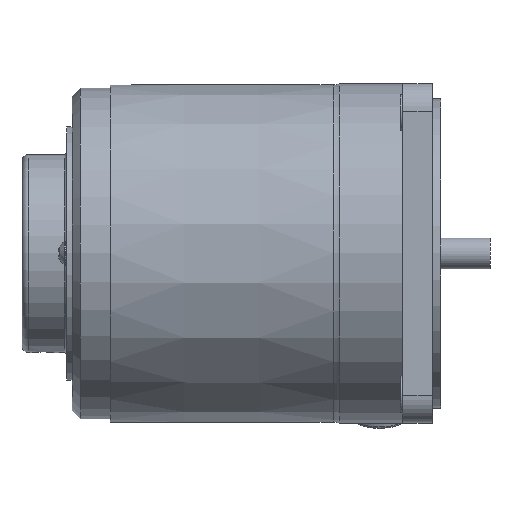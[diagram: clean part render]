
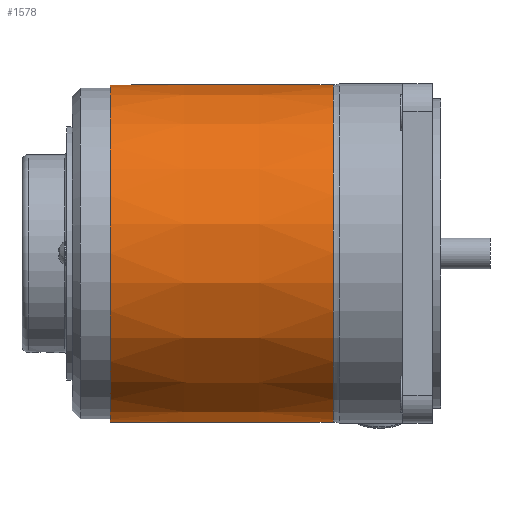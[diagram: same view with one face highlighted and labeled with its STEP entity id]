
A CAD part, top view. The second image highlights one B-rep face of the part: STEP entity #1578.
In plain terms, the highlighted conical face has half-angle 0.073 degrees and reference radius 39.784 mm.
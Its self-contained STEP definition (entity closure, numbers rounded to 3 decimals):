
#1544=CARTESIAN_POINT('',(9.,39.75,0.0));
#1545=VERTEX_POINT('',#1544);
#1546=CARTESIAN_POINT('',(9.,0.,0.0));
#1547=DIRECTION('',(1.0,0.0,0.0));
#1548=DIRECTION('',(0.0,1.0,0.0));
#1549=AXIS2_PLACEMENT_3D('',#1546,#1547,#1548);
#1550=CIRCLE('',#1549,39.75);
#1551=EDGE_CURVE('',#1545,#1545,#1550,.T.);
#1559=CARTESIAN_POINT('',(35.288,0.,0.0));
#1560=DIRECTION('',(1.0,0.,0.0));
#1561=DIRECTION('',(0.0,1.0,0.0));
#1562=AXIS2_PLACEMENT_3D('',#1559,#1560,#1561);
#1563=CONICAL_SURFACE('',#1562,39.784,0.073);
#1564=CARTESIAN_POINT('',(61.576,39.817,0.0));
#1565=VERTEX_POINT('',#1564);
#1566=CARTESIAN_POINT('',(61.576,0.,0.0));
#1567=DIRECTION('',(1.0,0.0,0.0));
#1568=DIRECTION('',(0.0,1.0,0.0));
#1569=AXIS2_PLACEMENT_3D('',#1566,#1567,#1568);
#1570=CIRCLE('',#1569,39.817);
#1571=EDGE_CURVE('',#1565,#1565,#1570,.T.);
#1572=ORIENTED_EDGE('',*,*,#1571,.F.);
#1573=EDGE_LOOP('',(#1572));
#1574=FACE_OUTER_BOUND('',#1573,.T.);
#1575=ORIENTED_EDGE('',*,*,#1551,.T.);
#1576=EDGE_LOOP('',(#1575));
#1577=FACE_BOUND('',#1576,.T.);
#1578=ADVANCED_FACE('',(#1574,#1577),#1563,.T.);
